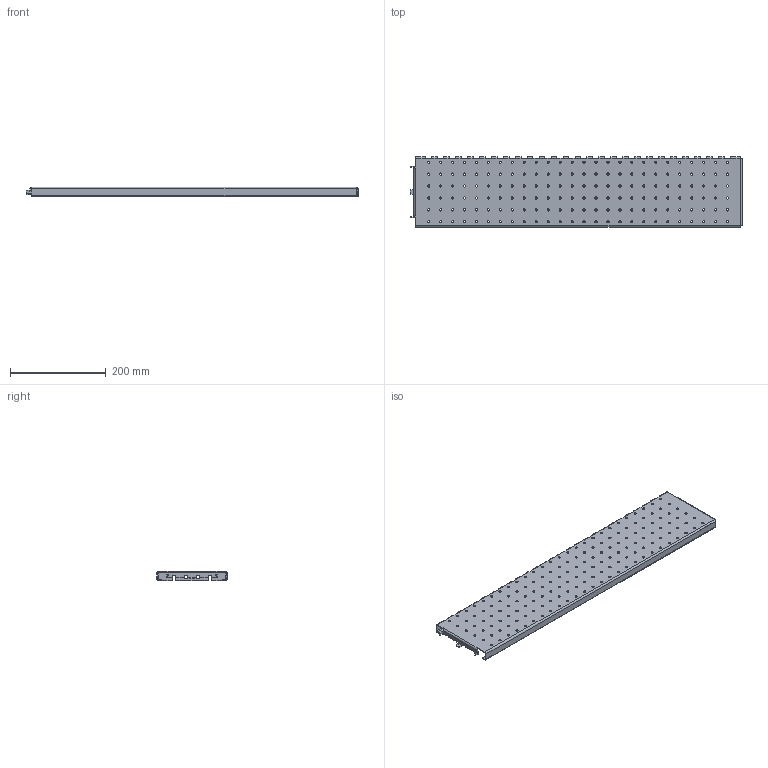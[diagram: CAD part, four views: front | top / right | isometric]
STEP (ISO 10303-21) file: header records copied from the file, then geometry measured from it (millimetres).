
FILE_DESCRIPTION(('STEP AP203'), '1');
FILE_NAME('Îãðàæäåíèå ñáîðíîé øèíû áîêîâîå ìîíòàæíîå 150õ800 ìì OptiBox M 419274 ÊÝÀÇ', '', ('UNSPECIFIED'), ('UNSPECIFIED'), 'C3D Converter', 'C3D Toolkit', '');
FILE_SCHEMA(('CONFIG_CONTROL_DESIGN'));
Length unit declared in the file: millimetre
Bounding box: 694.3 x 147 x 20 mm (x, y, z)
Volume: 253623 mm3; surface area: 265595.2 mm2
Topology: 1 solids, 1 shells, 520 faces, 1438 edges, 868 vertices
Faces by surface type: cylinder 286, plane 234
Full cylindrical faces by diameter (mm): 4.6 x156, 7.3 x2
Entity records: 16424 total; most frequent: DIRECTION 2894, CARTESIAN_POINT 2669, ORIENTED_EDGE 2560, EDGE_CURVE 1280, AXIS2_PLACEMENT_3D 1093, EDGE_LOOP 994, VERTEX_POINT 868, LINE 708
